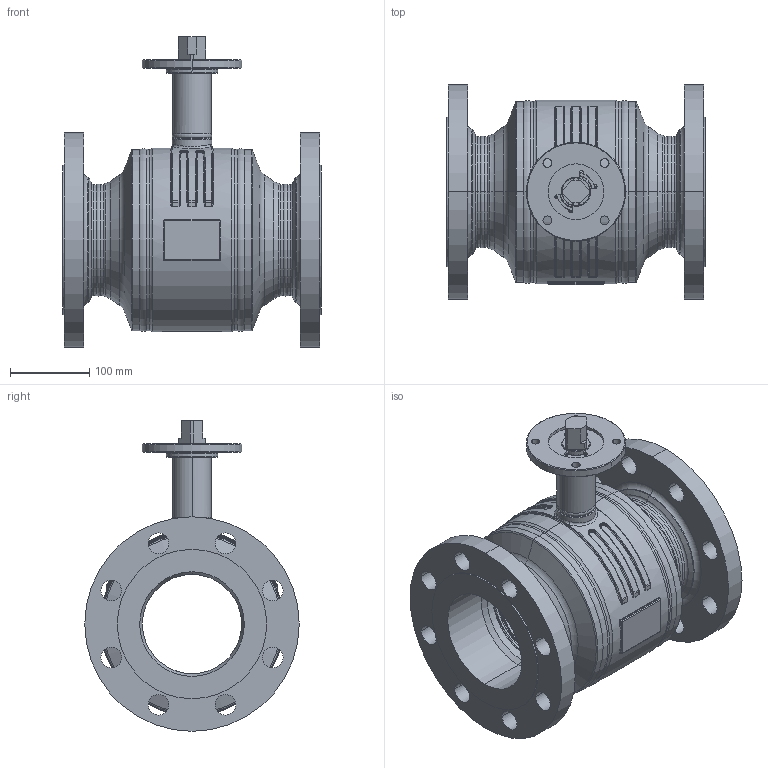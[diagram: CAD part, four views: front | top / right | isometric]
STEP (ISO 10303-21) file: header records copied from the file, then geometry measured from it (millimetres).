
FILE_DESCRIPTION((''),'2;1');
FILE_NAME('KHMO-F-V-H-125P040-VI_SW0001','2025-04-22T16:31:18',('jeitlers'),('KLINGER'),'CREO PARAMETRIC BY PTC INC, 2023014','CREO PARAMETRIC BY PTC INC, 2023014','');
FILE_SCHEMA(('CONFIG_CONTROL_DESIGN'));
Length unit declared in the file: millimetre
Products named in the file (1): KHMO-F-V-H-125P040-VI_SW0001
Bounding box: 325 x 270 x 391 mm (x, y, z)
Volume: 5157799.7 mm3; surface area: 1054511.9 mm2
Topology: 2 solids, 2 shells, 611 faces, 1457 edges, 864 vertices
Faces by surface type: cylinder 226, torus 128, plane 111, cone 86, bspline 52, sphere 8
Entity records: 30389 total; most frequent: CARTESIAN_POINT 16024, DIRECTION 3235, ORIENTED_EDGE 2898, EDGE_CURVE 1449, AXIS2_PLACEMENT_3D 1379, VERTEX_POINT 864, CIRCLE 820, EDGE_LOOP 693
